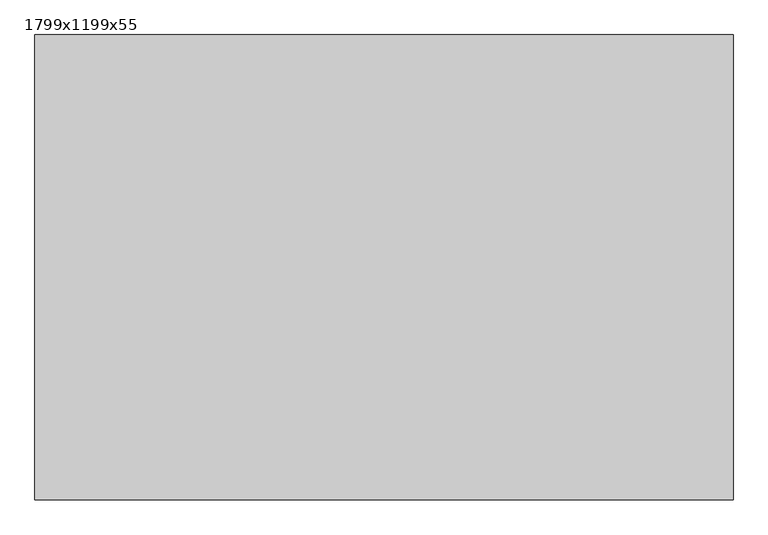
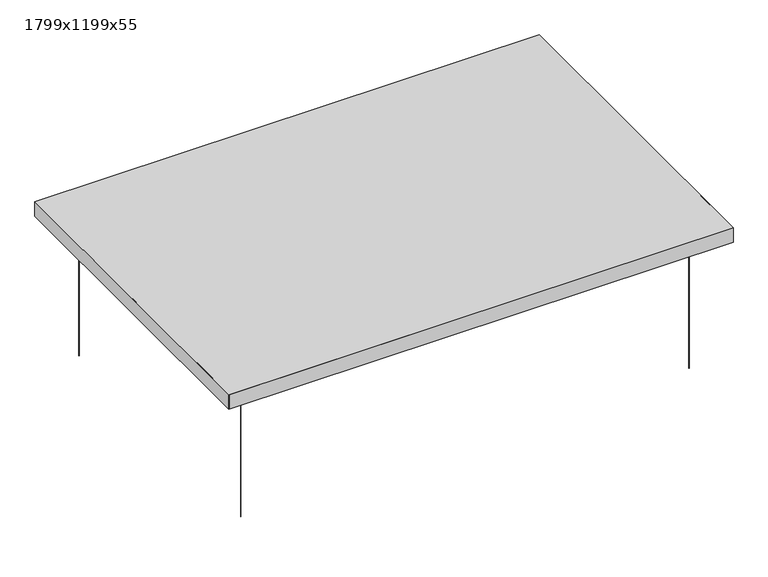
"""IFC4 building model written with IfcOpenShell, lengths in millimetres: proxy geometry, Texaa_Plafond respirant_Strato_Panneaux absorbant : 1799x1199x55."""

from ifc_helpers import new_model, si_unit, point, frame, frame_2d, origin, origin_with_axes, place, context, project, spatial, polyline, circle_curve, trimmed, segment, composite_curve, outline, extrude, faceted_brep, source, transform, mapped, element, save


def proxy_1799x1199x55_a04ea0c2(model_context):
    return source(origin(), model_context, "Body", "SolidModel", [
        extrude(outline(composite_curve([segment(trimmed(circle_curve(frame_2d((-799.5, -499.5)), 0.75), [point((-800.25, -499.5))], [point((-798.75, -499.5))], False, "CARTESIAN"), True, "CONTINUOUS"), segment(trimmed(circle_curve(frame_2d((-799.5, -499.5)), 0.75), [point((-798.75, -499.5))], [point((-800.25, -499.5))], False, "CARTESIAN"), True, "CONTINUOUS")], self_intersect=False)), origin_with_axes(), (0.0, 0.0, 1.0), 500.0),
        extrude(outline(composite_curve([segment(trimmed(circle_curve(frame_2d((799.5, -499.5)), 0.75), [point((798.75, -499.5))], [point((800.25, -499.5))], False, "CARTESIAN"), True, "CONTINUOUS"), segment(trimmed(circle_curve(frame_2d((799.5, -499.5)), 0.75), [point((800.25, -499.5))], [point((798.75, -499.5))], False, "CARTESIAN"), True, "CONTINUOUS")], self_intersect=False)), origin_with_axes(), (0.0, 0.0, 1.0), 500.0),
        extrude(outline(composite_curve([segment(trimmed(circle_curve(frame_2d((799.5, 499.5)), 0.75), [point((798.75, 499.5))], [point((800.25, 499.5))], False, "CARTESIAN"), True, "CONTINUOUS"), segment(trimmed(circle_curve(frame_2d((799.5, 499.5)), 0.75), [point((800.25, 499.5))], [point((798.75, 499.5))], False, "CARTESIAN"), True, "CONTINUOUS")], self_intersect=False)), origin_with_axes(), (0.0, 0.0, 1.0), 500.0),
        extrude(outline(composite_curve([segment(trimmed(circle_curve(frame_2d((-799.5, 499.5)), 0.75), [point((-800.25, 499.5))], [point((-798.75, 499.5))], False, "CARTESIAN"), True, "CONTINUOUS"), segment(trimmed(circle_curve(frame_2d((-799.5, 499.5)), 0.75), [point((-798.75, 499.5))], [point((-800.25, 499.5))], False, "CARTESIAN"), True, "CONTINUOUS")], self_intersect=False)), origin_with_axes(), (0.0, 0.0, 1.0), 500.0),
        extrude(outline(polyline([(-898.5, -598.5), (-898.5, 598.5), (898.5, 598.5), (898.5, -598.5), (-898.5, -598.5)])), frame((0.0, 0.0, 501.0), z_axis=(0.0, 0.0, 1.0), x_axis=(1.0, 0.0, 0.0)), (0.0, 0.0, 1.0), 53.0),
        faceted_brep([(-899.5, -599.5, 555.0), (899.5, -599.5, 555.0), (899.5, 599.5, 555.0), (-899.5, 599.5, 555.0), (-899.5, -599.5, 500.0), (-899.5, 599.5, 500.0), (899.5, 599.5, 500.0), (899.5, -599.5, 500.0), (-849.5, 549.5, 500.0), (-849.5, -549.5, 500.0), (849.5, -549.5, 500.0), (849.5, 549.5, 500.0), (849.5, 549.5, 501.0), (-849.5, 549.5, 501.0), (849.5, -549.5, 501.0), (-849.5, -549.5, 501.0), (-898.5, -598.5, 554.0), (-898.5, 598.5, 554.0), (898.5, 598.5, 554.0), (898.5, -598.5, 554.0), (-898.5, -598.5, 501.0), (898.5, -598.5, 501.0), (898.5, 598.5, 501.0), (-898.5, 598.5, 501.0)], [[[0, 1, 2, 3]], [[4, 5, 6, 7], [8, 9, 10, 11]], [[3, 5, 4, 0]], [[2, 6, 5, 3]], [[1, 7, 6, 2]], [[0, 4, 7, 1]], [[8, 11, 12, 13]], [[11, 10, 14, 12]], [[10, 9, 15, 14]], [[13, 15, 9, 8]], [[16, 17, 18, 19]], [[20, 21, 22, 23], [12, 14, 15, 13]], [[16, 20, 23, 17]], [[17, 23, 22, 18]], [[18, 22, 21, 19]], [[19, 21, 20, 16]]]),
    ])


if __name__ == "__main__":
    model = new_model("IFC4")
    model_context = context("Model", 3, world=origin())
    ifc_project = project(units=[si_unit("LENGTHUNIT", "METRE", prefix="MILLI")], contexts=[model_context])
    site = spatial("IfcSite", under=ifc_project)
    building = spatial("IfcBuilding", under=site)
    placement = place(None, origin())
    proxy_1799x1199x55_shape = proxy_1799x1199x55_a04ea0c2(model_context)
    element("IfcBuildingElementProxy", 1, Name="Texaa_Plafond respirant_Strato_Panneaux absorbant : 1799x1199x55", ObjectType="Texaa_Plafond respirant_Strato_Panneaux absorbant : 1799x1199x55", at=placement, inside=building, context=model_context, shape_type="MappedRepresentation", body=[
        mapped(proxy_1799x1199x55_shape, transform((0.0, 0.0, 0.0), x_axis=(1.0, 0.0, 0.0), y_axis=(0.0, 1.0, 0.0), z_axis=(0.0, 0.0, 1.0))),
    ])
    save(model, "model.ifc")
